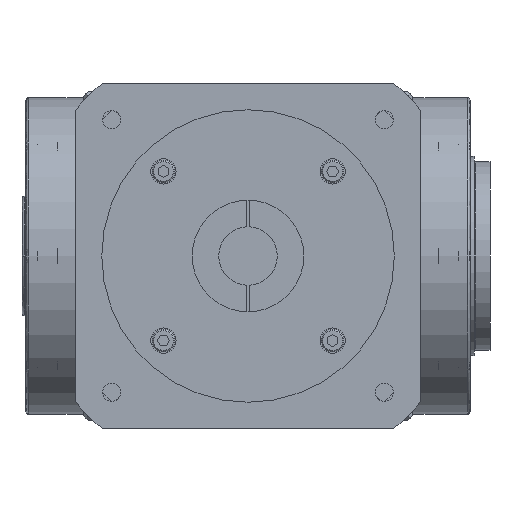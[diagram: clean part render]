
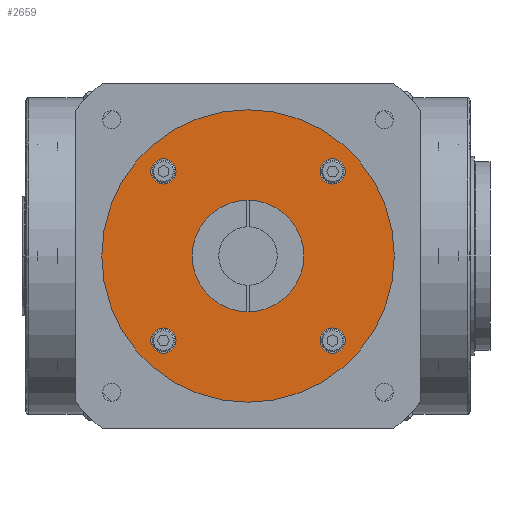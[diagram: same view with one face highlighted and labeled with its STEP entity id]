
A CAD part, front view. The second image highlights one B-rep face of the part: STEP entity #2659.
In plain terms, the highlighted planar face has unit normal (0, -1, 0).
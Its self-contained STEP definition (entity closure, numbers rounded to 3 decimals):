
#153 = ORIENTED_EDGE ( 'NONE', *, *, #531, .T. ) ;
#521 = CARTESIAN_POINT ( 'NONE',  ( 36.57, -12.5, 31.82 ) ) ;
#531 = EDGE_CURVE ( 'NONE', #21168, #13755, #17512, .T. ) ;
#630 = CARTESIAN_POINT ( 'NONE',  ( 27.07, -12.5, 31.82 ) ) ;
#1174 = CARTESIAN_POINT ( 'NONE',  ( 0., -12.5, 0. ) ) ;
#1661 = ORIENTED_EDGE ( 'NONE', *, *, #17409, .F. ) ;
#1705 = ORIENTED_EDGE ( 'NONE', *, *, #7625, .F. ) ;
#1960 = EDGE_LOOP ( 'NONE', ( #153, #17519 ) ) ;
#2260 = VERTEX_POINT ( 'NONE', #17154 ) ;
#2315 = DIRECTION ( 'NONE',  ( 0., -1., 0. ) ) ;
#2357 = CARTESIAN_POINT ( 'NONE',  ( 21., -12.5, 0. ) ) ;
#2437 = DIRECTION ( 'NONE',  ( -1., 0., 0. ) ) ;
#2612 = DIRECTION ( 'NONE',  ( 0., -1., 0. ) ) ;
#2659 = ADVANCED_FACE ( 'NONE', ( #4190, #4220, #4076, #4048, #4014, #4287 ), #4362, .F. ) ;
#2942 = ORIENTED_EDGE ( 'NONE', *, *, #12240, .F. ) ;
#3046 = VERTEX_POINT ( 'NONE', #30317 ) ;
#3786 = AXIS2_PLACEMENT_3D ( 'NONE', #12412, #29989, #14985 ) ;
#3813 = DIRECTION ( 'NONE',  ( 1., 0., 0. ) ) ;
#3953 = DIRECTION ( 'NONE',  ( 1., 0., 0. ) ) ;
#3989 = DIRECTION ( 'NONE',  ( 0., 1., 0. ) ) ;
#3994 = CARTESIAN_POINT ( 'NONE',  ( 0., -12.5, -55. ) ) ;
#4014 = FACE_OUTER_BOUND ( 'NONE', #22627, .T. ) ;
#4048 = FACE_BOUND ( 'NONE', #22952, .T. ) ;
#4076 = FACE_BOUND ( 'NONE', #18532, .T. ) ;
#4190 = FACE_BOUND ( 'NONE', #22314, .T. ) ;
#4220 = FACE_BOUND ( 'NONE', #23636, .T. ) ;
#4287 = FACE_BOUND ( 'NONE', #1960, .T. ) ;
#4362 = PLANE ( 'NONE',  #20362 ) ;
#4443 = DIRECTION ( 'NONE',  ( 0., -1., 0. ) ) ;
#4501 = CIRCLE ( 'NONE', #18311, 4.75 ) ;
#5128 = CIRCLE ( 'NONE', #9361, 4.75 ) ;
#5334 = CIRCLE ( 'NONE', #26197, 55. ) ;
#5449 = CARTESIAN_POINT ( 'NONE',  ( -55., -12.5, 0. ) ) ;
#5474 = CIRCLE ( 'NONE', #22936, 4.75 ) ;
#5791 = EDGE_CURVE ( 'NONE', #11938, #29381, #25718, .T. ) ;
#7625 = EDGE_CURVE ( 'NONE', #20189, #3046, #13203, .T. ) ;
#7955 = EDGE_CURVE ( 'NONE', #19181, #8816, #10396, .T. ) ;
#8505 = CARTESIAN_POINT ( 'NONE',  ( -31.82, -12.5, -31.82 ) ) ;
#8816 = VERTEX_POINT ( 'NONE', #19512 ) ;
#9361 = AXIS2_PLACEMENT_3D ( 'NONE', #32949, #17962, #2437 ) ;
#10396 = CIRCLE ( 'NONE', #28823, 4.75 ) ;
#10465 = DIRECTION ( 'NONE',  ( 0., -1., 0. ) ) ;
#10509 = AXIS2_PLACEMENT_3D ( 'NONE', #29708, #14704, #32235 ) ;
#11144 = DIRECTION ( 'NONE',  ( -1., 0., 0. ) ) ;
#11230 = CARTESIAN_POINT ( 'NONE',  ( -31.82, -12.5, 31.82 ) ) ;
#11481 = ORIENTED_EDGE ( 'NONE', *, *, #12045, .F. ) ;
#11938 = VERTEX_POINT ( 'NONE', #630 ) ;
#12045 = EDGE_CURVE ( 'NONE', #26985, #31881, #16135, .T. ) ;
#12240 = EDGE_CURVE ( 'NONE', #3046, #20189, #14643, .T. ) ;
#12412 = CARTESIAN_POINT ( 'NONE',  ( -31.82, -12.5, -31.82 ) ) ;
#12428 = CIRCLE ( 'NONE', #29152, 4.75 ) ;
#13203 = CIRCLE ( 'NONE', #3786, 4.75 ) ;
#13755 = VERTEX_POINT ( 'NONE', #23623 ) ;
#13879 = DIRECTION ( 'NONE',  ( -1., 0., 0. ) ) ;
#14238 = EDGE_CURVE ( 'NONE', #8816, #19181, #4501, .T. ) ;
#14643 = CIRCLE ( 'NONE', #24948, 4.75 ) ;
#14704 = DIRECTION ( 'NONE',  ( 0., 1., 0. ) ) ;
#14985 = DIRECTION ( 'NONE',  ( -1., 0., 0. ) ) ;
#15016 = CARTESIAN_POINT ( 'NONE',  ( 0., -12.5, 0. ) ) ;
#16135 = CIRCLE ( 'NONE', #20519, 55. ) ;
#16217 = DIRECTION ( 'NONE',  ( 0., 1., 0. ) ) ;
#17154 = CARTESIAN_POINT ( 'NONE',  ( 36.57, -12.5, -31.82 ) ) ;
#17409 = EDGE_CURVE ( 'NONE', #31881, #26985, #5334, .T. ) ;
#17512 = CIRCLE ( 'NONE', #28281, 21. ) ;
#17519 = ORIENTED_EDGE ( 'NONE', *, *, #18573, .T. ) ;
#17536 = DIRECTION ( 'NONE',  ( 1., 0., 0. ) ) ;
#17602 = ORIENTED_EDGE ( 'NONE', *, *, #25695, .F. ) ;
#17857 = CARTESIAN_POINT ( 'NONE',  ( 31.82, -12.5, -31.82 ) ) ;
#17962 = DIRECTION ( 'NONE',  ( 0., -1., 0. ) ) ;
#18137 = CARTESIAN_POINT ( 'NONE',  ( 31.82, -12.5, -31.82 ) ) ;
#18311 = AXIS2_PLACEMENT_3D ( 'NONE', #25640, #10465, #28147 ) ;
#18532 = EDGE_LOOP ( 'NONE', ( #27451, #19109 ) ) ;
#18573 = EDGE_CURVE ( 'NONE', #13755, #21168, #20936, .T. ) ;
#18710 = ORIENTED_EDGE ( 'NONE', *, *, #5791, .F. ) ;
#19109 = ORIENTED_EDGE ( 'NONE', *, *, #14238, .F. ) ;
#19181 = VERTEX_POINT ( 'NONE', #23443 ) ;
#19301 = DIRECTION ( 'NONE',  ( 0., 1., 0. ) ) ;
#19512 = CARTESIAN_POINT ( 'NONE',  ( -27.07, -12.5, 31.82 ) ) ;
#19900 = CARTESIAN_POINT ( 'NONE',  ( 31.82, -12.5, 31.82 ) ) ;
#20189 = VERTEX_POINT ( 'NONE', #26851 ) ;
#20360 = DIRECTION ( 'NONE',  ( -1., 0., 0. ) ) ;
#20362 = AXIS2_PLACEMENT_3D ( 'NONE', #3994, #3989, #3953 ) ;
#20519 = AXIS2_PLACEMENT_3D ( 'NONE', #1174, #19301, #3813 ) ;
#20647 = DIRECTION ( 'NONE',  ( -1., 0., 0. ) ) ;
#20936 = CIRCLE ( 'NONE', #10509, 21. ) ;
#21168 = VERTEX_POINT ( 'NONE', #2357 ) ;
#21764 = EDGE_CURVE ( 'NONE', #2260, #28311, #12428, .T. ) ;
#22314 = EDGE_LOOP ( 'NONE', ( #17602, #32075 ) ) ;
#22425 = DIRECTION ( 'NONE',  ( -1., 0., 0. ) ) ;
#22627 = EDGE_LOOP ( 'NONE', ( #1661, #11481 ) ) ;
#22936 = AXIS2_PLACEMENT_3D ( 'NONE', #18137, #2612, #20647 ) ;
#22952 = EDGE_LOOP ( 'NONE', ( #18710, #30608 ) ) ;
#23443 = CARTESIAN_POINT ( 'NONE',  ( -36.57, -12.5, 31.82 ) ) ;
#23623 = CARTESIAN_POINT ( 'NONE',  ( -21., -12.5, 0. ) ) ;
#23636 = EDGE_LOOP ( 'NONE', ( #2942, #1705 ) ) ;
#24948 = AXIS2_PLACEMENT_3D ( 'NONE', #8505, #26315, #11144 ) ;
#25640 = CARTESIAN_POINT ( 'NONE',  ( -31.82, -12.5, 31.82 ) ) ;
#25695 = EDGE_CURVE ( 'NONE', #28311, #2260, #5474, .T. ) ;
#25718 = CIRCLE ( 'NONE', #26852, 4.75 ) ;
#26197 = AXIS2_PLACEMENT_3D ( 'NONE', #15016, #32533, #17536 ) ;
#26315 = DIRECTION ( 'NONE',  ( 0., -1., 0. ) ) ;
#26851 = CARTESIAN_POINT ( 'NONE',  ( -27.07, -12.5, -31.82 ) ) ;
#26852 = AXIS2_PLACEMENT_3D ( 'NONE', #19900, #4443, #22425 ) ;
#26985 = VERTEX_POINT ( 'NONE', #5449 ) ;
#27451 = ORIENTED_EDGE ( 'NONE', *, *, #7955, .F. ) ;
#27597 = CARTESIAN_POINT ( 'NONE',  ( 27.07, -12.5, -31.82 ) ) ;
#28147 = DIRECTION ( 'NONE',  ( -1., 0., 0. ) ) ;
#28281 = AXIS2_PLACEMENT_3D ( 'NONE', #32990, #16217, #32711 ) ;
#28311 = VERTEX_POINT ( 'NONE', #27597 ) ;
#28439 = EDGE_CURVE ( 'NONE', #29381, #11938, #5128, .T. ) ;
#28823 = AXIS2_PLACEMENT_3D ( 'NONE', #11230, #28900, #13879 ) ;
#28900 = DIRECTION ( 'NONE',  ( 0., -1., 0. ) ) ;
#29152 = AXIS2_PLACEMENT_3D ( 'NONE', #17857, #2315, #20360 ) ;
#29381 = VERTEX_POINT ( 'NONE', #521 ) ;
#29708 = CARTESIAN_POINT ( 'NONE',  ( 0., -12.5, 0. ) ) ;
#29989 = DIRECTION ( 'NONE',  ( 0., -1., 0. ) ) ;
#30240 = CARTESIAN_POINT ( 'NONE',  ( 55., -12.5, 0. ) ) ;
#30317 = CARTESIAN_POINT ( 'NONE',  ( -36.57, -12.5, -31.82 ) ) ;
#30608 = ORIENTED_EDGE ( 'NONE', *, *, #28439, .F. ) ;
#31881 = VERTEX_POINT ( 'NONE', #30240 ) ;
#32075 = ORIENTED_EDGE ( 'NONE', *, *, #21764, .F. ) ;
#32235 = DIRECTION ( 'NONE',  ( 1., 0., 0. ) ) ;
#32533 = DIRECTION ( 'NONE',  ( 0., 1., 0. ) ) ;
#32711 = DIRECTION ( 'NONE',  ( 1., 0., 0. ) ) ;
#32949 = CARTESIAN_POINT ( 'NONE',  ( 31.82, -12.5, 31.82 ) ) ;
#32990 = CARTESIAN_POINT ( 'NONE',  ( 0., -12.5, 0. ) ) ;
